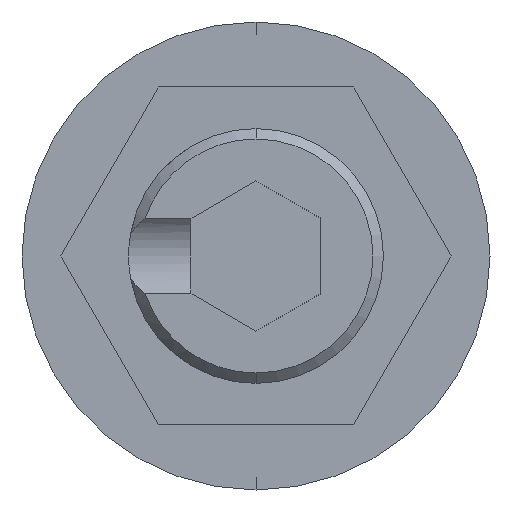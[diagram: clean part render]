
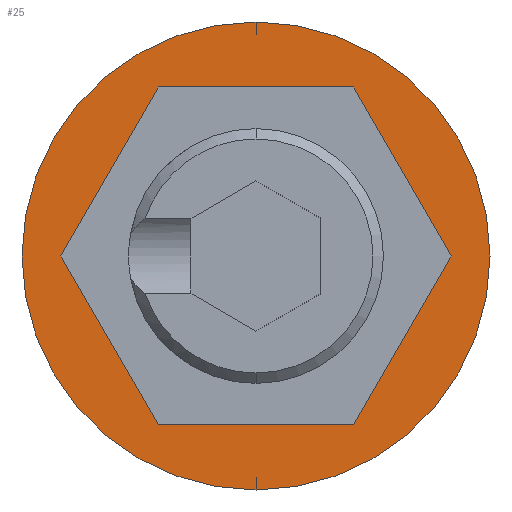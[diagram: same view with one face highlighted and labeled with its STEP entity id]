
A CAD part, front view. The second image highlights one B-rep face of the part: STEP entity #25.
In plain terms, the highlighted planar face has unit normal (0, -1, 0).
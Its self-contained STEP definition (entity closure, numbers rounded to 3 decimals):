
#22 = EDGE_CURVE ( 'NONE', #1445, #2026, #248, .T. ) ;
#25 = ADVANCED_FACE ( 'NONE', ( #244, #241 ), #307, .T. ) ;
#44 = VERTEX_POINT ( 'NONE', #345 ) ;
#153 = ORIENTED_EDGE ( 'NONE', *, *, #1873, .F. ) ;
#166 = DIRECTION ( 'NONE',  ( 0.5, 0., -0.866 ) ) ;
#177 = ORIENTED_EDGE ( 'NONE', *, *, #1194, .T. ) ;
#196 = ORIENTED_EDGE ( 'NONE', *, *, #2020, .F. ) ;
#199 = VERTEX_POINT ( 'NONE', #537 ) ;
#236 = DIRECTION ( 'NONE',  ( -0.5, 0., 0.866 ) ) ;
#241 = FACE_OUTER_BOUND ( 'NONE', #1156, .T. ) ;
#244 = FACE_BOUND ( 'NONE', #1864, .T. ) ;
#248 = CIRCLE ( 'NONE', #1123, 4.5 ) ;
#253 = CARTESIAN_POINT ( 'NONE',  ( 3.753, 0., 0. ) ) ;
#289 = VECTOR ( 'NONE', #2198, 1000. ) ;
#297 = VERTEX_POINT ( 'NONE', #791 ) ;
#307 = PLANE ( 'NONE',  #1648 ) ;
#318 = AXIS2_PLACEMENT_3D ( 'NONE', #1164, #1166, #1989 ) ;
#319 = CARTESIAN_POINT ( 'NONE',  ( 0., 0., 0. ) ) ;
#320 = CARTESIAN_POINT ( 'NONE',  ( 0., 0., 0. ) ) ;
#323 = DIRECTION ( 'NONE',  ( 0., -1., 0. ) ) ;
#328 = DIRECTION ( 'NONE',  ( 0., 0., -1. ) ) ;
#331 = DIRECTION ( 'NONE',  ( 0., -1., 0. ) ) ;
#333 = DIRECTION ( 'NONE',  ( 0., 0., -1. ) ) ;
#345 = CARTESIAN_POINT ( 'NONE',  ( -1.876, 0., -3.25 ) ) ;
#352 = CARTESIAN_POINT ( 'NONE',  ( -3.753, 0., 0. ) ) ;
#353 = ORIENTED_EDGE ( 'NONE', *, *, #974, .F. ) ;
#537 = CARTESIAN_POINT ( 'NONE',  ( 3.753, 0., 0. ) ) ;
#563 = CARTESIAN_POINT ( 'NONE',  ( 1.876, 0., -3.25 ) ) ;
#608 = CARTESIAN_POINT ( 'NONE',  ( -1.876, 0., 3.25 ) ) ;
#791 = CARTESIAN_POINT ( 'NONE',  ( 1.876, 0., -3.25 ) ) ;
#840 = LINE ( 'NONE', #2161, #1003 ) ;
#895 = ORIENTED_EDGE ( 'NONE', *, *, #913, .F. ) ;
#913 = EDGE_CURVE ( 'NONE', #44, #297, #1209, .T. ) ;
#956 = CARTESIAN_POINT ( 'NONE',  ( 1.876, 0., 3.25 ) ) ;
#974 = EDGE_CURVE ( 'NONE', #199, #2051, #1324, .T. ) ;
#1003 = VECTOR ( 'NONE', #166, 1000. ) ;
#1017 = VERTEX_POINT ( 'NONE', #352 ) ;
#1048 = CARTESIAN_POINT ( 'NONE',  ( 0., 0., -4.5 ) ) ;
#1111 = DIRECTION ( 'NONE',  ( 0.5, 0., 0.866 ) ) ;
#1123 = AXIS2_PLACEMENT_3D ( 'NONE', #320, #323, #328 ) ;
#1151 = ORIENTED_EDGE ( 'NONE', *, *, #1273, .F. ) ;
#1156 = EDGE_LOOP ( 'NONE', ( #177, #1193 ) ) ;
#1164 = CARTESIAN_POINT ( 'NONE',  ( 0., 0., 0. ) ) ;
#1166 = DIRECTION ( 'NONE',  ( 0., -1., 0. ) ) ;
#1193 = ORIENTED_EDGE ( 'NONE', *, *, #22, .T. ) ;
#1194 = EDGE_CURVE ( 'NONE', #2026, #1445, #2216, .T. ) ;
#1209 = LINE ( 'NONE', #2213, #289 ) ;
#1261 = CARTESIAN_POINT ( 'NONE',  ( -1.876, 0., 3.25 ) ) ;
#1273 = EDGE_CURVE ( 'NONE', #1017, #44, #840, .T. ) ;
#1296 = DIRECTION ( 'NONE',  ( -0.5, 0., -0.866 ) ) ;
#1324 = LINE ( 'NONE', #253, #1414 ) ;
#1414 = VECTOR ( 'NONE', #236, 1000. ) ;
#1445 = VERTEX_POINT ( 'NONE', #2003 ) ;
#1648 = AXIS2_PLACEMENT_3D ( 'NONE', #319, #331, #333 ) ;
#1685 = VECTOR ( 'NONE', #1111, 1000. ) ;
#1692 = LINE ( 'NONE', #563, #1685 ) ;
#1817 = VECTOR ( 'NONE', #1296, 1000. ) ;
#1864 = EDGE_LOOP ( 'NONE', ( #895, #1151, #2204, #153, #353, #196 ) ) ;
#1873 = EDGE_CURVE ( 'NONE', #2051, #2230, #2004, .T. ) ;
#1926 = EDGE_CURVE ( 'NONE', #2230, #1017, #1949, .T. ) ;
#1949 = LINE ( 'NONE', #1261, #1817 ) ;
#1963 = DIRECTION ( 'NONE',  ( -1., 0., 0. ) ) ;
#1985 = VECTOR ( 'NONE', #1963, 1000. ) ;
#1989 = DIRECTION ( 'NONE',  ( 0., 0., -1. ) ) ;
#2003 = CARTESIAN_POINT ( 'NONE',  ( 0., 0., 4.5 ) ) ;
#2004 = LINE ( 'NONE', #2071, #1985 ) ;
#2020 = EDGE_CURVE ( 'NONE', #297, #199, #1692, .T. ) ;
#2026 = VERTEX_POINT ( 'NONE', #1048 ) ;
#2051 = VERTEX_POINT ( 'NONE', #956 ) ;
#2071 = CARTESIAN_POINT ( 'NONE',  ( 1.876, 0., 3.25 ) ) ;
#2161 = CARTESIAN_POINT ( 'NONE',  ( -3.753, 0., 0. ) ) ;
#2198 = DIRECTION ( 'NONE',  ( 1., 0., 0. ) ) ;
#2204 = ORIENTED_EDGE ( 'NONE', *, *, #1926, .F. ) ;
#2213 = CARTESIAN_POINT ( 'NONE',  ( -1.876, 0., -3.25 ) ) ;
#2216 = CIRCLE ( 'NONE', #318, 4.5 ) ;
#2230 = VERTEX_POINT ( 'NONE', #608 ) ;
